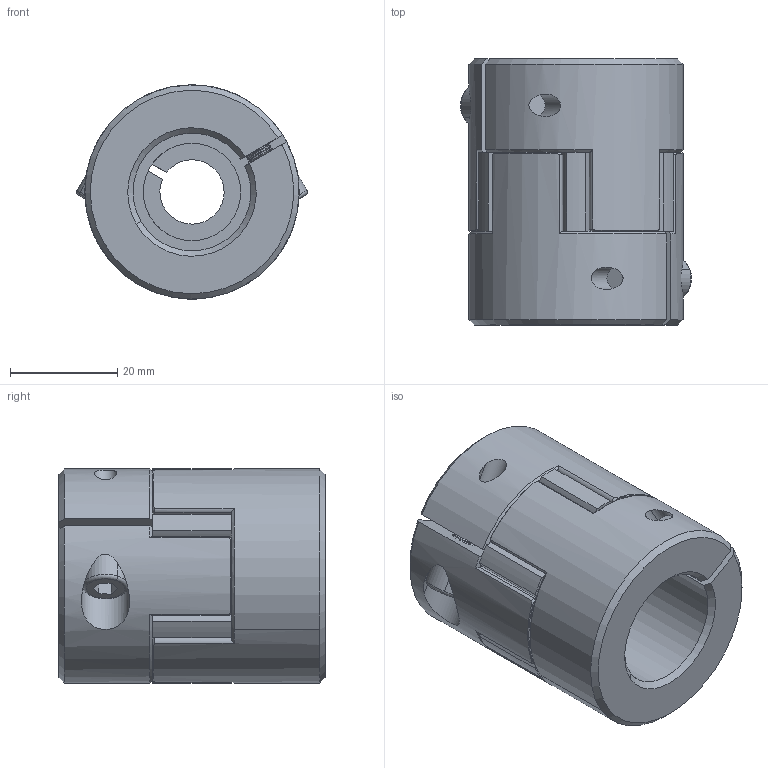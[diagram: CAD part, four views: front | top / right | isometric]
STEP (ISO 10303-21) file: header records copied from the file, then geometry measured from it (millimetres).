
FILE_DESCRIPTION (( 'STEP AP203' ), '1' );
FILE_NAME ('LF-B-D40L50-12-22.STEP', '2021-10-25T02:45:27', ( '' ), ( '' ), 'SwSTEP 2.0', 'SolidWorks 2018', '' );
FILE_SCHEMA (( 'CONFIG_CONTROL_DESIGN' ));
Length unit declared in the file: millimetre
Products named in the file (1): LF-B-D40L50-12-22
Bounding box: 43.11 x 49.7 x 40 mm (x, y, z)
Volume: 48370 mm3; surface area: 14737.9 mm2
Topology: 1 solids, 7 shells, 470 faces, 1113 edges, 660 vertices
Faces by surface type: cone 170, cylinder 169, plane 127, torus 4
Entity records: 13932 total; most frequent: CARTESIAN_POINT 2888, DIRECTION 2501, ORIENTED_EDGE 2218, EDGE_CURVE 1109, AXIS2_PLACEMENT_3D 1037, VERTEX_POINT 660, CIRCLE 566, EDGE_LOOP 487
